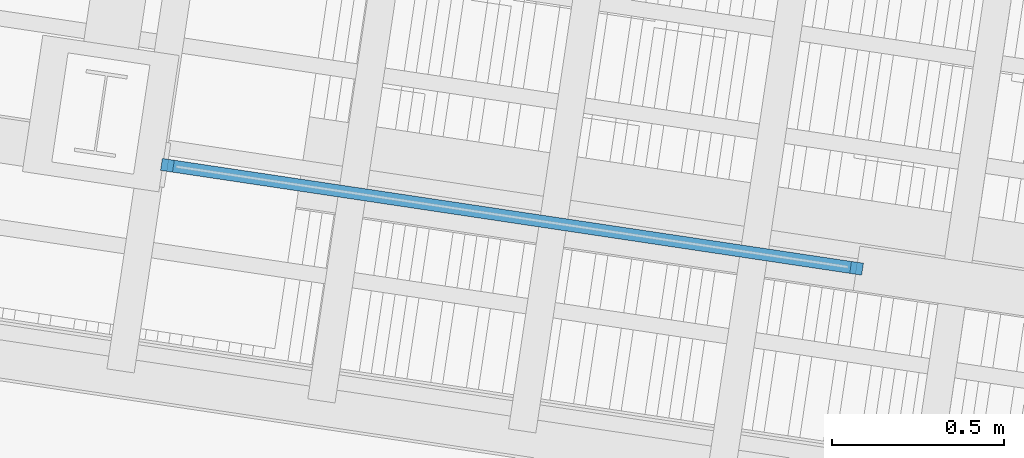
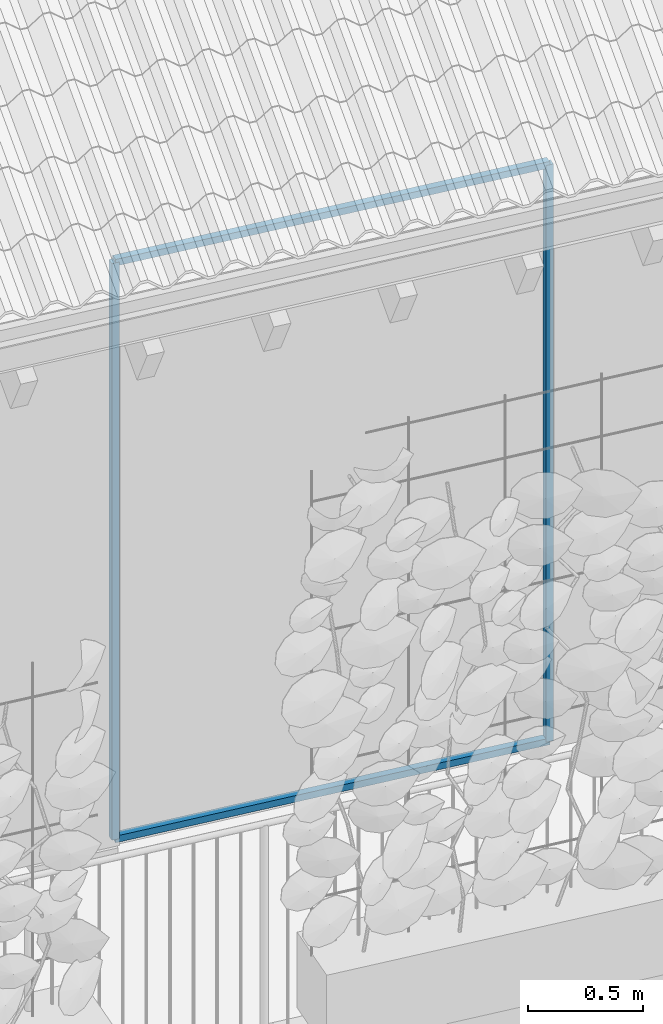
# One storey, part 89 of 128: 4 members.
"""IFC4 building model written with IfcOpenShell, lengths in metres."""

from ifc_helpers import new_model, si_unit, direction, frame, origin_with_axes, place, context, subcontext, project, spatial, rectangle, extrude, material, material_profile, profile_set, profile_usage, type_object, element, save


model = new_model("IFC4")

# Units and contexts
model_context = context("Model", 3, precision=1e-05, world=origin_with_axes(), true_north=direction((0.0, 1.0)))
body_context = subcontext(model_context, "Body", "Model", "MODEL_VIEW")
ifc_project = project(units=[si_unit("VOLUMEUNIT", "CUBIC_METRE"), si_unit("LENGTHUNIT", "METRE"), si_unit("AREAUNIT", "SQUARE_METRE")], contexts=[model_context])

# Site, building, storey
site_placement = place(None, origin_with_axes())
site = spatial("IfcSite", under=ifc_project, at=site_placement, Name="Lares · Rua das Mercês · artigo 4771")
building_placement = place(site_placement, frame((15.0, 9.7, 13.9), z_axis=(0.0, 0.0, 1.0), x_axis=(0.989015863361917, -0.147809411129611, 0.0)))
building = spatial("IfcBuilding", under=site, at=building_placement, Name="Casa Sobreposta")
storey_placement = place(building_placement, origin_with_axes())
storey = spatial("IfcBuildingStorey", under=building, at=storey_placement, Name="00 · Habitação e estacionamento", Elevation=13.9)

# Members
ifc_material = material(Name="Aço pintado / Stahl lackiert", Category="steel")
ifc_material_profile = material_profile(ifc_material, rectangle(XDim=0.035, YDim=0.035))
ifc_profile_set = profile_set([ifc_material_profile], Name="R0.035")
ifc_profile_usage_1 = profile_usage(ifc_profile_set)
member_type = type_object("IfcMemberType", Name="R0.035 / steel", PredefinedType="NOTDEFINED", material=ifc_profile_set)
member_1_placement = place(storey_placement, frame((20.2133333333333, 0.0, 0.0), z_axis=(0.0, 0.0, 1.0), x_axis=(1.0, 0.0, 0.0)))
element("IfcMember", 1, at=member_1_placement, inside=storey, type_object=member_type, material=ifc_profile_usage_1, Name="Folha de correr sul 10 · montante", context=body_context, shape_type="SweptSolid", body=[
    extrude(rectangle(XDim=0.035, YDim=0.035), origin_with_axes(), (0.0, 0.0, 1.0), 3.05),
])
ifc_profile_usage_2 = profile_usage(ifc_profile_set)
member_2_placement = place(storey_placement, frame((22.2346666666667, 0.0, 0.0), z_axis=(0.0, 0.0, 1.0), x_axis=(1.0, 0.0, 0.0)))
element("IfcMember", 2, at=member_2_placement, inside=storey, type_object=member_type, material=ifc_profile_usage_2, Name="Folha de correr sul 10 · montante", context=body_context, shape_type="SweptSolid", body=[
    extrude(rectangle(XDim=0.035, YDim=0.035), origin_with_axes(), (0.0, 0.0, 1.0), 3.05),
])
ifc_profile_usage_3 = profile_usage(ifc_profile_set)
member_3_placement = place(storey_placement, frame((20.2133333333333, 0.0, 0.0), z_axis=(1.0, 0.0, 0.0), x_axis=(0.0, -1.0, 0.0)))
element("IfcMember", 3, at=member_3_placement, inside=storey, type_object=member_type, material=ifc_profile_usage_3, Name="Folha de correr sul 10 · travessa", context=body_context, shape_type="SweptSolid", body=[
    extrude(rectangle(XDim=0.035, YDim=0.035), origin_with_axes(), (0.0, 0.0, 1.0), 2.02133333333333),
])
ifc_profile_usage_4 = profile_usage(ifc_profile_set)
member_4_placement = place(storey_placement, frame((20.2133333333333, 0.0, 3.05), z_axis=(1.0, 0.0, 0.0), x_axis=(0.0, -1.0, 0.0)))
element("IfcMember", 4, at=member_4_placement, inside=storey, type_object=member_type, material=ifc_profile_usage_4, Name="Folha de correr sul 10 · travessa", context=body_context, shape_type="SweptSolid", body=[
    extrude(rectangle(XDim=0.035, YDim=0.035), origin_with_axes(), (0.0, 0.0, 1.0), 2.02133333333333),
])

save(model, "model.ifc")
